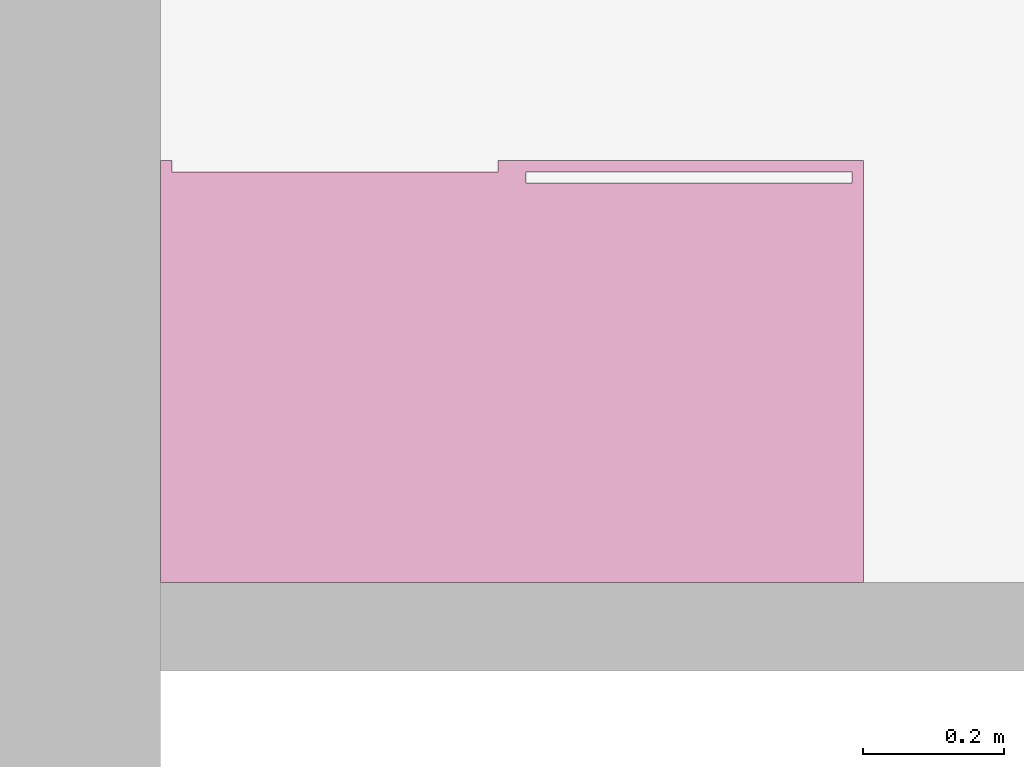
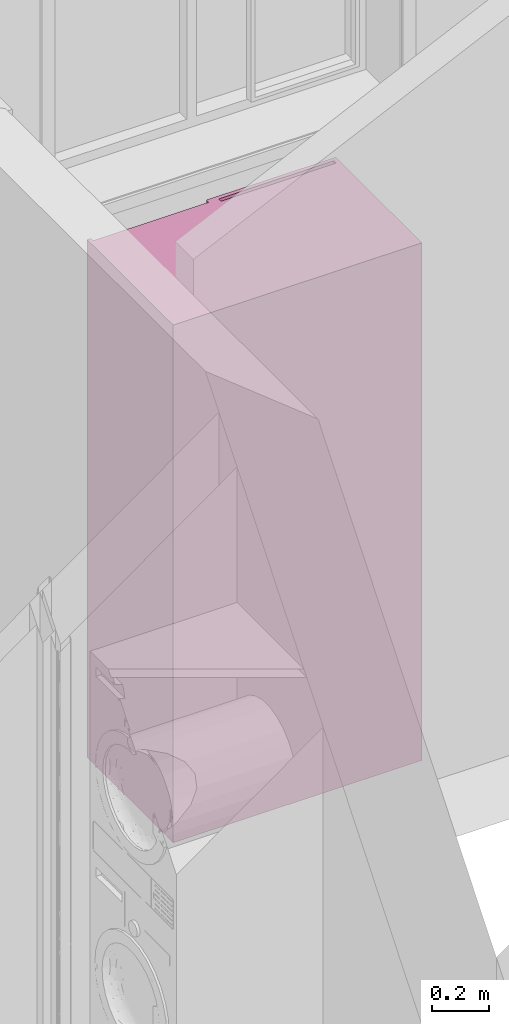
# One storey, part 41 of 44: 1 furnishing.
"""IFC2X3 building model written with IfcOpenShell, lengths in millimetres."""

from ifc_helpers import new_model, entity, si_unit, converted_unit, direction, frame, frame_2d, origin, place, context, subcontext, project, spatial, polyline, rectangle, outline, extrude, source, transform, mapped, material, type_object, type_shapes, element, save


model = new_model("IFC2X3")

# Units and contexts
model_context = context("Model", 3, precision=0.01, world=origin(), true_north=direction((0.0, 1.0)))
body_context = subcontext(model_context, "Body", "Model", "MODEL_VIEW")
ifc_project = project(units=[si_unit("LENGTHUNIT", "METRE", prefix="MILLI"), si_unit("AREAUNIT", "SQUARE_METRE"), si_unit("VOLUMEUNIT", "CUBIC_METRE"), converted_unit("PLANEANGLEUNIT", "DEGREE", entity("IfcPlaneAngleMeasure", 0.017453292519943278), si_unit("PLANEANGLEUNIT", "RADIAN"), dimensions=[0, 0, 0, 0, 0, 0, 0])], contexts=[model_context])

# Site, building, storey, space
site_placement = place(None, origin())
site = spatial("IfcSite", under=ifc_project, at=site_placement, Name="Default", CompositionType="ELEMENT")
building_placement = place(site_placement, origin())
building = spatial("IfcBuilding", under=site, at=building_placement, CompositionType="ELEMENT")
storey_placement = place(building_placement, frame((0.0, 0.0, 2681.0)))
storey = spatial("IfcBuildingStorey", under=building, at=storey_placement, Name="Et. 2", CompositionType="ELEMENT", Elevation=2681.0)
space_placement = place(storey_placement, origin())
space = spatial("IfcSpace", under=storey, at=space_placement, Name="213", CompositionType="ELEMENT", InteriorOrExteriorSpace="INTERNAL")

# Furnishing
ifc_material = material(Name="Møbler - Hvit")
furniture_type = type_object("IfcFurnitureType", Name="Focus Garderobeskap - Skyvedører 2 slette:100x60x220", AssemblyPlace="NOTDEFINED", material=ifc_material)
shared_shape = source(origin(), body_context, "Body", "SweptSolid", [
    extrude(rectangle(XDim=16.000000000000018, YDim=504.0000000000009, at=frame_2d((0.0, 4.263256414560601e-14), x_axis=(1.0, 0.0))), frame((232.0, 292.0, 10.0), z_axis=(0.0, 0.0, 1.0), x_axis=(0.0, 1.0, 0.0)), (0.0, 0.0, 1.0), 2189.9999999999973),
    extrude(rectangle(XDim=16.000000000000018, YDim=504.00000000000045, at=frame_2d((0.0, 4.263256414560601e-14), x_axis=(1.0, 0.0))), frame((-232.0, 276.0, 10.0), z_axis=(0.0, 0.0, 1.0), x_axis=(0.0, 1.0, 0.0)), (0.0, 0.0, 1.0), 2189.9999999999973),
    extrude(outline(polyline([(-442.0, -500.0), (158.0, -500.0), (158.0, -484.0), (126.0, -484.0), (126.0, 484.0), (158.0, 484.0), (158.0, 500.0), (-442.0, 500.0), (-442.0, -500.0)])), frame((0.0, 142.0, 0.0), z_axis=(0.0, 0.0, 1.0), x_axis=(0.0, 1.0, 0.0)), (0.0, 0.0, 1.0), 2200.0000000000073),
])
type_shapes(furniture_type, [shared_shape])
furnishing_placement = place(space_placement, frame((28824.009586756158, 13782.18095768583, 0.0)))
element("IfcFurnishingElement", 1, at=furnishing_placement, inside=space, type_object=furniture_type, material=ifc_material, Name="Focus Garderobeskap - Skyvedører 2 slette:100x60x220", context=body_context, shape_type="MappedRepresentation", body=[
    mapped(shared_shape, transform((0.0, 0.0, 0.0), scale=1.0)),
])

save(model, "model.ifc")
